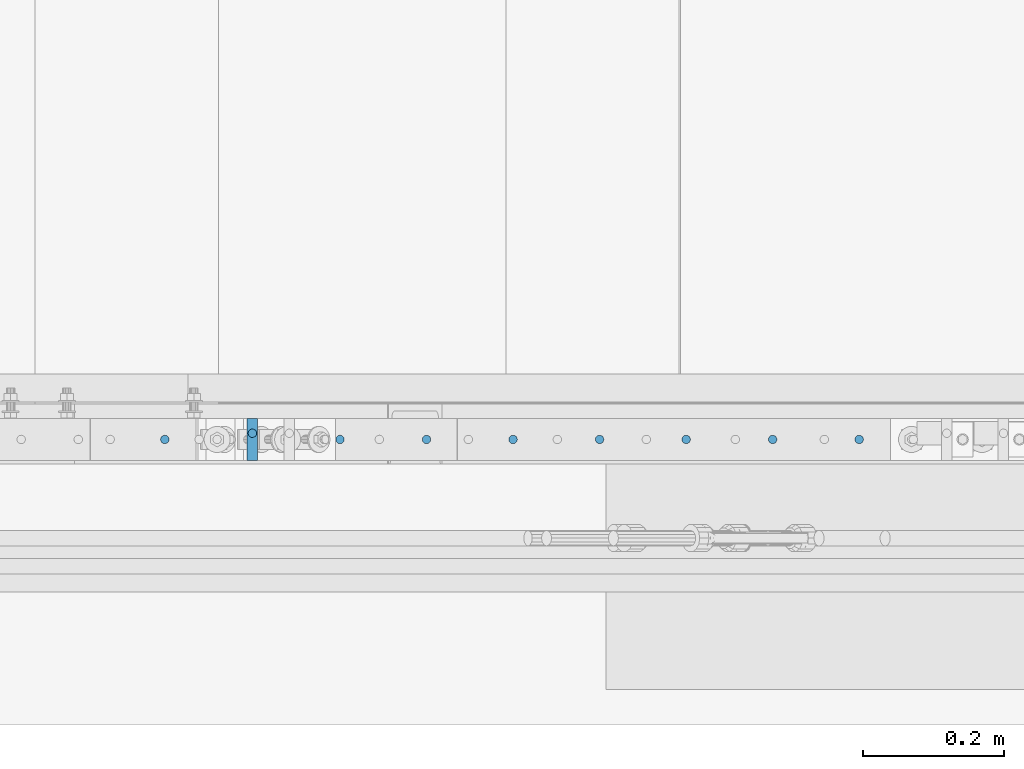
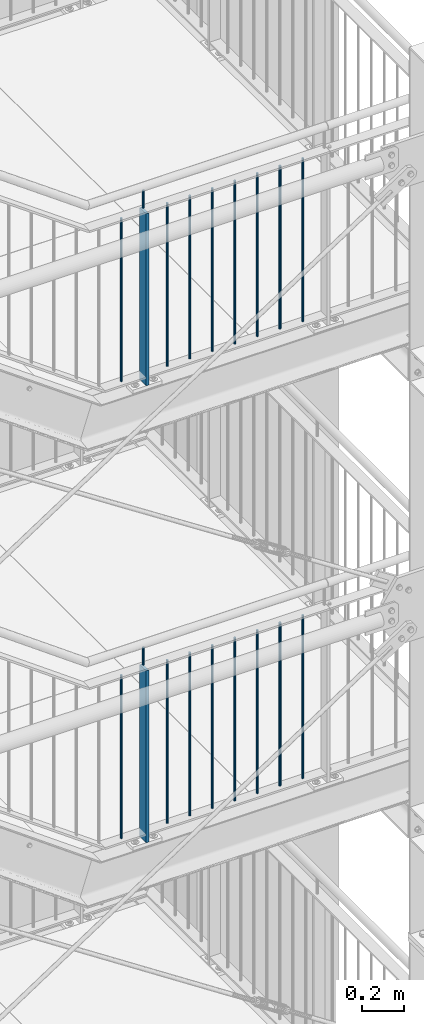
# One storey, part 83 of 831: 20 columns.
"""IFC2X3 building model written with IfcOpenShell, lengths in millimetres."""

from ifc_helpers import new_model, entity, si_unit, converted_unit, frame, origin, origin_with_axes, origin_2d, place, context, project, spatial, rectangle, circle, extrude, clip, halfspace, material, element, save


model = new_model("IFC2X3")

# Units and contexts
model_context = context("Model", 3, precision=1e-09, world=origin_with_axes())
ifc_project = project(units=[si_unit("LENGTHUNIT", "METRE", prefix="MILLI"), si_unit("AREAUNIT", "SQUARE_METRE"), si_unit("VOLUMEUNIT", "CUBIC_METRE"), converted_unit("PLANEANGLEUNIT", "DEGREE", entity("IfcPlaneAngleMeasure", 0.01745329), si_unit("PLANEANGLEUNIT", "RADIAN"), dimensions=[0, 0, 0, 0, 0, 0, 0])], contexts=[model_context])

# Site, building, storey
site_placement = place(None, origin_with_axes())
site = spatial("IfcSite", under=ifc_project, at=site_placement, Name="Site", CompositionType="ELEMENT")
building_placement = place(site_placement, origin_with_axes())
building = spatial("IfcBuilding", under=site, at=building_placement, Name="Struktur 1", CompositionType="ELEMENT")
storey_placement = place(building_placement, origin_with_axes())
storey = spatial("IfcBuildingStorey", under=building, at=storey_placement, Name="Default Storey", CompositionType="ELEMENT", Elevation=0.0)

# Columns
ifc_material = material(Name="S235JR")
column_1_placement = place(None, frame((7364.792117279, 4526.736971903, 14936.223292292), z_axis=(0.0, 0.0, 1.0), x_axis=(-1.0, 0.0, 0.0)))
element("IfcColumn", 1, at=column_1_placement, inside=storey, material=ifc_material, Name="Railing_Post_Landing#9", ObjectType="Railing_Post_Landing#9", context=model_context, shape_type="Clipping", body=[
    clip(clip(extrude(rectangle(XDim=15.0, YDim=60.0, at=origin_2d()), origin(), (0.0, 0.0, -1.0), 1070.646584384), halfspace(frame((7364.792117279, 4526.736971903, -1019.722292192), z_axis=(0.0, 0.0, 1.0), x_axis=(-1.0, 0.0, 0.0)), True)), halfspace(frame((7364.792117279, 4526.736971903, -30.924292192), z_axis=(0.0, 0.0, -1.0), x_axis=(1.0, 0.0, 0.0)), True)),
])
column_2_placement = place(None, frame((8225.542260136, 4526.736971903, 14918.785281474), z_axis=(0.0, 0.0, 1.0), x_axis=(-1.0, 0.0, 0.0)))
element("IfcColumn", 2, at=column_2_placement, inside=storey, material=ifc_material, Name="Railing_Picket_Landing#55", ObjectType="Railing_Picket_Landing#55", context=model_context, shape_type="Clipping", body=[
    clip(clip(extrude(circle(Radius=6.0, at=origin_2d()), origin(), (0.0, 0.0, -1.0), 965.770562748), halfspace(frame((8225.542260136, 4526.736971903, -13.486281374), z_axis=(0.0, 0.0, -1.0), x_axis=(1.0, 0.0, 0.0)), True)), halfspace(frame((8225.542260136, 4526.736971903, -952.284281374), z_axis=(0.0, 0.0, 1.0), x_axis=(-1.0, 0.0, 0.0)), True)),
])
column_3_placement = place(None, frame((8102.792236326, 4526.736971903, 14918.785281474), z_axis=(0.0, 0.0, 1.0), x_axis=(-1.0, 0.0, 0.0)))
element("IfcColumn", 3, at=column_3_placement, inside=storey, material=ifc_material, Name="Railing_Picket_Landing#56", ObjectType="Railing_Picket_Landing#56", context=model_context, shape_type="Clipping", body=[
    clip(clip(extrude(circle(Radius=6.0, at=origin_2d()), origin(), (0.0, 0.0, -1.0), 965.770562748), halfspace(frame((8102.792236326, 4526.736971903, -13.486281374), z_axis=(0.0, 0.0, -1.0), x_axis=(1.0, 0.0, 0.0)), True)), halfspace(frame((8102.792236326, 4526.736971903, -952.284281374), z_axis=(0.0, 0.0, 1.0), x_axis=(-1.0, 0.0, 0.0)), True)),
])
column_4_placement = place(None, frame((7980.042212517, 4526.736971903, 14918.785281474), z_axis=(0.0, 0.0, 1.0), x_axis=(-1.0, 0.0, 0.0)))
element("IfcColumn", 4, at=column_4_placement, inside=storey, material=ifc_material, Name="Railing_Picket_Landing#57", ObjectType="Railing_Picket_Landing#57", context=model_context, shape_type="Clipping", body=[
    clip(clip(extrude(circle(Radius=6.0, at=origin_2d()), origin(), (0.0, 0.0, -1.0), 965.770562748), halfspace(frame((7980.042212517, 4526.736971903, -13.486281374), z_axis=(0.0, 0.0, -1.0), x_axis=(1.0, 0.0, 0.0)), True)), halfspace(frame((7980.042212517, 4526.736971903, -952.284281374), z_axis=(0.0, 0.0, 1.0), x_axis=(-1.0, 0.0, 0.0)), True)),
])
column_5_placement = place(None, frame((7857.292188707, 4526.736971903, 14918.785281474), z_axis=(0.0, 0.0, 1.0), x_axis=(-1.0, 0.0, 0.0)))
element("IfcColumn", 5, at=column_5_placement, inside=storey, material=ifc_material, Name="Railing_Picket_Landing#58", ObjectType="Railing_Picket_Landing#58", context=model_context, shape_type="Clipping", body=[
    clip(clip(extrude(circle(Radius=6.0, at=origin_2d()), origin(), (0.0, 0.0, -1.0), 965.770562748), halfspace(frame((7857.292188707, 4526.736971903, -13.486281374), z_axis=(0.0, 0.0, -1.0), x_axis=(1.0, 0.0, 0.0)), True)), halfspace(frame((7857.292188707, 4526.736971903, -952.284281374), z_axis=(0.0, 0.0, 1.0), x_axis=(-1.0, 0.0, 0.0)), True)),
])
column_6_placement = place(None, frame((7734.542164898, 4526.736971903, 14918.785281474), z_axis=(0.0, 0.0, 1.0), x_axis=(-1.0, 0.0, 0.0)))
element("IfcColumn", 6, at=column_6_placement, inside=storey, material=ifc_material, Name="Railing_Picket_Landing#59", ObjectType="Railing_Picket_Landing#59", context=model_context, shape_type="Clipping", body=[
    clip(clip(extrude(circle(Radius=6.0, at=origin_2d()), origin(), (0.0, 0.0, -1.0), 965.770562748), halfspace(frame((7734.542164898, 4526.736971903, -13.486281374), z_axis=(0.0, 0.0, -1.0), x_axis=(1.0, 0.0, 0.0)), True)), halfspace(frame((7734.542164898, 4526.736971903, -952.284281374), z_axis=(0.0, 0.0, 1.0), x_axis=(-1.0, 0.0, 0.0)), True)),
])
column_7_placement = place(None, frame((7611.792141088, 4526.736971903, 14918.785281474), z_axis=(0.0, 0.0, 1.0), x_axis=(-1.0, 0.0, 0.0)))
element("IfcColumn", 7, at=column_7_placement, inside=storey, material=ifc_material, Name="Railing_Picket_Landing#60", ObjectType="Railing_Picket_Landing#60", context=model_context, shape_type="Clipping", body=[
    clip(clip(extrude(circle(Radius=6.0, at=origin_2d()), origin(), (0.0, 0.0, -1.0), 965.770562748), halfspace(frame((7611.792141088, 4526.736971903, -13.486281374), z_axis=(0.0, 0.0, -1.0), x_axis=(1.0, 0.0, 0.0)), True)), halfspace(frame((7611.792141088, 4526.736971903, -952.284281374), z_axis=(0.0, 0.0, 1.0), x_axis=(-1.0, 0.0, 0.0)), True)),
])
column_8_placement = place(None, frame((7489.042117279, 4526.736971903, 14918.785281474), z_axis=(0.0, 0.0, 1.0), x_axis=(-1.0, 0.0, 0.0)))
element("IfcColumn", 8, at=column_8_placement, inside=storey, material=ifc_material, Name="Railing_Picket_Landing#61", ObjectType="Railing_Picket_Landing#61", context=model_context, shape_type="Clipping", body=[
    clip(clip(extrude(circle(Radius=6.0, at=origin_2d()), origin(), (0.0, 0.0, -1.0), 965.770562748), halfspace(frame((7489.042117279, 4526.736971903, -13.486281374), z_axis=(0.0, 0.0, -1.0), x_axis=(1.0, 0.0, 0.0)), True)), halfspace(frame((7489.042117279, 4526.736971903, -952.284281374), z_axis=(0.0, 0.0, 1.0), x_axis=(-1.0, 0.0, 0.0)), True)),
])
column_9_placement = place(None, frame((7240.542117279, 4526.736971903, 14918.785281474), z_axis=(0.0, 0.0, 1.0), x_axis=(-1.0, 0.0, 0.0)))
element("IfcColumn", 9, at=column_9_placement, inside=storey, material=ifc_material, Name="Railing_Picket_Landing#62", ObjectType="Railing_Picket_Landing#62", context=model_context, shape_type="Clipping", body=[
    clip(clip(extrude(circle(Radius=6.0, at=origin_2d()), origin(), (0.0, 0.0, -1.0), 965.770562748), halfspace(frame((7240.542117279, 4526.736971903, -13.486281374), z_axis=(0.0, 0.0, -1.0), x_axis=(1.0, 0.0, 0.0)), True)), halfspace(frame((7240.542117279, 4526.736971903, -952.284281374), z_axis=(0.0, 0.0, 1.0), x_axis=(-1.0, 0.0, 0.0)), True)),
])
column_10_placement = place(None, frame((7364.792117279, 4535.536971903, 15023.785281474), z_axis=(0.0, 0.0, 1.0), x_axis=(0.0, 1.0, 0.0)))
element("IfcColumn", 10, at=column_10_placement, inside=storey, material=ifc_material, Name="Bar#9", ObjectType="Bar#9", context=model_context, shape_type="Clipping", body=[
    clip(clip(extrude(circle(Radius=6.0, at=origin_2d()), origin(), (0.0, 0.0, -1.0), 116.970562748), halfspace(frame((-4535.536971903, 7364.792117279, -8.486281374), z_axis=(0.0, 0.0, -1.0), x_axis=(0.0, 1.0, 0.0)), True)), halfspace(frame((-4535.536971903, 7364.792117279, -108.484281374), z_axis=(0.0, 0.0, 1.0), x_axis=(0.0, -1.0, 0.0)), True)),
])
column_11_placement = place(None, frame((7364.792117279, 4526.736971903, 17563.723292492), z_axis=(0.0, 0.0, 1.0), x_axis=(-1.0, 0.0, 0.0)))
element("IfcColumn", 11, at=column_11_placement, inside=storey, material=ifc_material, Name="Railing_Post_Landing#9", ObjectType="Railing_Post_Landing#9", context=model_context, shape_type="Clipping", body=[
    clip(clip(extrude(rectangle(XDim=15.0, YDim=60.0, at=origin_2d()), origin(), (0.0, 0.0, -1.0), 1070.646584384), halfspace(frame((7364.792117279, 4526.736971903, -1019.722292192), z_axis=(0.0, 0.0, 1.0), x_axis=(-1.0, 0.0, 0.0)), True)), halfspace(frame((7364.792117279, 4526.736971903, -30.924292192), z_axis=(0.0, 0.0, -1.0), x_axis=(1.0, 0.0, 0.0)), True)),
])
column_12_placement = place(None, frame((8225.542260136, 4526.736971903, 17546.285281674), z_axis=(0.0, 0.0, 1.0), x_axis=(-1.0, 0.0, 0.0)))
element("IfcColumn", 12, at=column_12_placement, inside=storey, material=ifc_material, Name="Railing_Picket_Landing#55", ObjectType="Railing_Picket_Landing#55", context=model_context, shape_type="Clipping", body=[
    clip(clip(extrude(circle(Radius=6.0, at=origin_2d()), origin(), (0.0, 0.0, -1.0), 965.770562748), halfspace(frame((8225.542260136, 4526.736971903, -13.486281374), z_axis=(0.0, 0.0, -1.0), x_axis=(1.0, 0.0, 0.0)), True)), halfspace(frame((8225.542260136, 4526.736971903, -952.284281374), z_axis=(0.0, 0.0, 1.0), x_axis=(-1.0, 0.0, 0.0)), True)),
])
column_13_placement = place(None, frame((8102.792236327, 4526.736971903, 17546.285281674), z_axis=(0.0, 0.0, 1.0), x_axis=(-1.0, 0.0, 0.0)))
element("IfcColumn", 13, at=column_13_placement, inside=storey, material=ifc_material, Name="Railing_Picket_Landing#56", ObjectType="Railing_Picket_Landing#56", context=model_context, shape_type="Clipping", body=[
    clip(clip(extrude(circle(Radius=6.0, at=origin_2d()), origin(), (0.0, 0.0, -1.0), 965.770562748), halfspace(frame((8102.792236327, 4526.736971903, -13.486281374), z_axis=(0.0, 0.0, -1.0), x_axis=(1.0, 0.0, 0.0)), True)), halfspace(frame((8102.792236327, 4526.736971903, -952.284281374), z_axis=(0.0, 0.0, 1.0), x_axis=(-1.0, 0.0, 0.0)), True)),
])
column_14_placement = place(None, frame((7980.042212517, 4526.736971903, 17546.285281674), z_axis=(0.0, 0.0, 1.0), x_axis=(-1.0, 0.0, 0.0)))
element("IfcColumn", 14, at=column_14_placement, inside=storey, material=ifc_material, Name="Railing_Picket_Landing#57", ObjectType="Railing_Picket_Landing#57", context=model_context, shape_type="Clipping", body=[
    clip(clip(extrude(circle(Radius=6.0, at=origin_2d()), origin(), (0.0, 0.0, -1.0), 965.770562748), halfspace(frame((7980.042212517, 4526.736971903, -13.486281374), z_axis=(0.0, 0.0, -1.0), x_axis=(1.0, 0.0, 0.0)), True)), halfspace(frame((7980.042212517, 4526.736971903, -952.284281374), z_axis=(0.0, 0.0, 1.0), x_axis=(-1.0, 0.0, 0.0)), True)),
])
column_15_placement = place(None, frame((7857.292188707, 4526.736971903, 17546.285281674), z_axis=(0.0, 0.0, 1.0), x_axis=(-1.0, 0.0, 0.0)))
element("IfcColumn", 15, at=column_15_placement, inside=storey, material=ifc_material, Name="Railing_Picket_Landing#58", ObjectType="Railing_Picket_Landing#58", context=model_context, shape_type="Clipping", body=[
    clip(clip(extrude(circle(Radius=6.0, at=origin_2d()), origin(), (0.0, 0.0, -1.0), 965.770562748), halfspace(frame((7857.292188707, 4526.736971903, -13.486281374), z_axis=(0.0, 0.0, -1.0), x_axis=(1.0, 0.0, 0.0)), True)), halfspace(frame((7857.292188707, 4526.736971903, -952.284281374), z_axis=(0.0, 0.0, 1.0), x_axis=(-1.0, 0.0, 0.0)), True)),
])
column_16_placement = place(None, frame((7734.542164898, 4526.736971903, 17546.285281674), z_axis=(0.0, 0.0, 1.0), x_axis=(-1.0, 0.0, 0.0)))
element("IfcColumn", 16, at=column_16_placement, inside=storey, material=ifc_material, Name="Railing_Picket_Landing#59", ObjectType="Railing_Picket_Landing#59", context=model_context, shape_type="Clipping", body=[
    clip(clip(extrude(circle(Radius=6.0, at=origin_2d()), origin(), (0.0, 0.0, -1.0), 965.770562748), halfspace(frame((7734.542164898, 4526.736971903, -13.486281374), z_axis=(0.0, 0.0, -1.0), x_axis=(1.0, 0.0, 0.0)), True)), halfspace(frame((7734.542164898, 4526.736971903, -952.284281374), z_axis=(0.0, 0.0, 1.0), x_axis=(-1.0, 0.0, 0.0)), True)),
])
column_17_placement = place(None, frame((7611.792141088, 4526.736971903, 17546.285281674), z_axis=(0.0, 0.0, 1.0), x_axis=(-1.0, 0.0, 0.0)))
element("IfcColumn", 17, at=column_17_placement, inside=storey, material=ifc_material, Name="Railing_Picket_Landing#60", ObjectType="Railing_Picket_Landing#60", context=model_context, shape_type="Clipping", body=[
    clip(clip(extrude(circle(Radius=6.0, at=origin_2d()), origin(), (0.0, 0.0, -1.0), 965.770562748), halfspace(frame((7611.792141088, 4526.736971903, -13.486281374), z_axis=(0.0, 0.0, -1.0), x_axis=(1.0, 0.0, 0.0)), True)), halfspace(frame((7611.792141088, 4526.736971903, -952.284281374), z_axis=(0.0, 0.0, 1.0), x_axis=(-1.0, 0.0, 0.0)), True)),
])
column_18_placement = place(None, frame((7489.042117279, 4526.736971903, 17546.285281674), z_axis=(0.0, 0.0, 1.0), x_axis=(-1.0, 0.0, 0.0)))
element("IfcColumn", 18, at=column_18_placement, inside=storey, material=ifc_material, Name="Railing_Picket_Landing#61", ObjectType="Railing_Picket_Landing#61", context=model_context, shape_type="Clipping", body=[
    clip(clip(extrude(circle(Radius=6.0, at=origin_2d()), origin(), (0.0, 0.0, -1.0), 965.770562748), halfspace(frame((7489.042117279, 4526.736971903, -13.486281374), z_axis=(0.0, 0.0, -1.0), x_axis=(1.0, 0.0, 0.0)), True)), halfspace(frame((7489.042117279, 4526.736971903, -952.284281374), z_axis=(0.0, 0.0, 1.0), x_axis=(-1.0, 0.0, 0.0)), True)),
])
column_19_placement = place(None, frame((7240.542117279, 4526.736971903, 17546.285281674), z_axis=(0.0, 0.0, 1.0), x_axis=(-1.0, 0.0, 0.0)))
element("IfcColumn", 19, at=column_19_placement, inside=storey, material=ifc_material, Name="Railing_Picket_Landing#62", ObjectType="Railing_Picket_Landing#62", context=model_context, shape_type="Clipping", body=[
    clip(clip(extrude(circle(Radius=6.0, at=origin_2d()), origin(), (0.0, 0.0, -1.0), 965.770562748), halfspace(frame((7240.542117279, 4526.736971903, -13.486281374), z_axis=(0.0, 0.0, -1.0), x_axis=(1.0, 0.0, 0.0)), True)), halfspace(frame((7240.542117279, 4526.736971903, -952.284281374), z_axis=(0.0, 0.0, 1.0), x_axis=(-1.0, 0.0, 0.0)), True)),
])
column_20_placement = place(None, frame((7364.792117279, 4535.536971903, 17651.285281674), z_axis=(0.0, 0.0, 1.0), x_axis=(0.0, 1.0, 0.0)))
element("IfcColumn", 20, at=column_20_placement, inside=storey, material=ifc_material, Name="Bar#9", ObjectType="Bar#9", context=model_context, shape_type="Clipping", body=[
    clip(clip(extrude(circle(Radius=6.0, at=origin_2d()), origin(), (0.0, 0.0, -1.0), 116.970562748), halfspace(frame((-4535.536971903, 7364.792117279, -8.486281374), z_axis=(0.0, 0.0, -1.0), x_axis=(0.0, 1.0, 0.0)), True)), halfspace(frame((-4535.536971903, 7364.792117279, -108.484281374), z_axis=(0.0, 0.0, 1.0), x_axis=(0.0, -1.0, 0.0)), True)),
])

save(model, "model.ifc")
